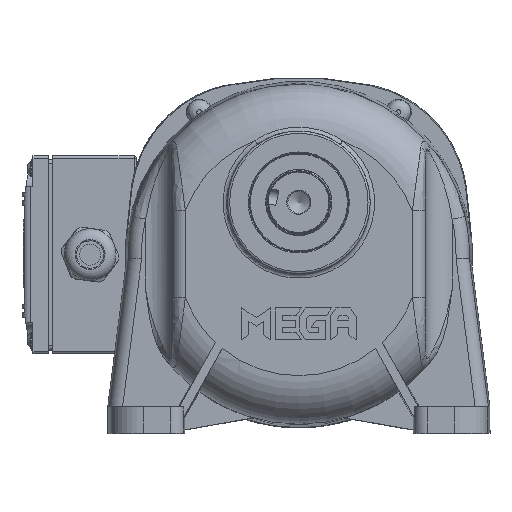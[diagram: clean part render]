
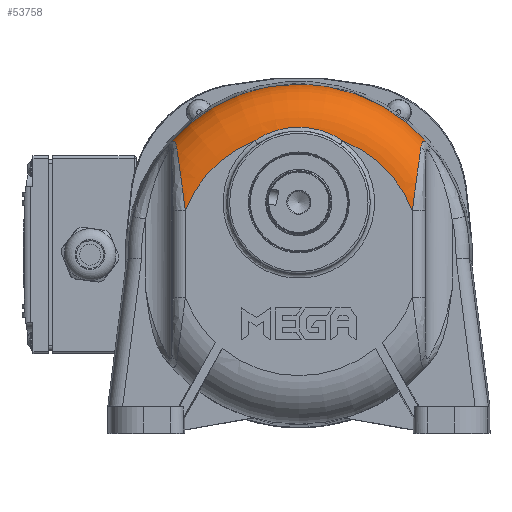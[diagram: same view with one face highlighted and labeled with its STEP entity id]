
A CAD part, top view. The second image highlights one B-rep face of the part: STEP entity #53758.
In plain terms, the highlighted toroidal (fillet/blend) face has major radius 55.343 mm and minor radius 22 mm.
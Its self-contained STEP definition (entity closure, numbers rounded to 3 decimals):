
#1431=TOROIDAL_SURFACE('',#57856,55.343,22.);
#3648=FACE_OUTER_BOUND('',#6945,.T.);
#6945=EDGE_LOOP('',(#37747,#37748,#37749,#37750,#37751,#37752,#37753,#37754));
#10184=CIRCLE('',#57857,55.343);
#10185=CIRCLE('',#57858,77.335);
#10186=CIRCLE('',#57859,55.343);
#18543=B_SPLINE_CURVE_WITH_KNOTS('',3,(#83741,#83742,#83743,#83744,#83745,
#83746,#83747),.UNSPECIFIED.,.F.,.F.,(4,1,1,1,4),(-0.938,-0.67,
-0.536,-0.268,0.),
 .UNSPECIFIED.);
#18544=B_SPLINE_CURVE_WITH_KNOTS('',3,(#83793,#83794,#83795,#83796,#83797,
#83798,#83799),.UNSPECIFIED.,.F.,.F.,(4,1,1,1,4),(-9.38,-8.993,
-8.607,-7.833,-6.673),.UNSPECIFIED.);
#18550=B_SPLINE_CURVE_WITH_KNOTS('',3,(#83991,#83992,#83993,#83994,#83995,
#83996,#83997),.UNSPECIFIED.,.F.,.F.,(4,1,1,1,4),(0.,
0.608,1.824,3.039,4.255),
 .UNSPECIFIED.);
#18551=B_SPLINE_CURVE_WITH_KNOTS('',3,(#84002,#84003,#84004,#84005,#84006,
#84007,#84008),.UNSPECIFIED.,.F.,.F.,(4,1,1,1,4),(-0.938,-0.67,
-0.536,-0.268,0.),.UNSPECIFIED.);
#18552=B_SPLINE_CURVE_WITH_KNOTS('',3,(#84010,#84011,#84012,#84013,#84014,
#84015,#84016,#84017),.UNSPECIFIED.,.F.,.F.,(4,1,1,1,1,4),(-2.707,
-1.934,-1.16,-0.774,-0.387,
0.),.UNSPECIFIED.);
#21691=VERTEX_POINT('',#83703);
#21692=VERTEX_POINT('',#83740);
#21693=VERTEX_POINT('',#83791);
#21701=VERTEX_POINT('',#83989);
#21702=VERTEX_POINT('',#83990);
#21703=VERTEX_POINT('',#83999);
#21704=VERTEX_POINT('',#84001);
#21705=VERTEX_POINT('',#84009);
#27428=EDGE_CURVE('',#21691,#21692,#18543,.T.);
#27431=EDGE_CURVE('',#21692,#21693,#18544,.T.);
#27445=EDGE_CURVE('',#21701,#21702,#18550,.T.);
#27446=EDGE_CURVE('',#21701,#21693,#10184,.T.);
#27447=EDGE_CURVE('',#21703,#21691,#10185,.F.);
#27448=EDGE_CURVE('',#21704,#21703,#18551,.T.);
#27449=EDGE_CURVE('',#21705,#21704,#18552,.T.);
#27450=EDGE_CURVE('',#21705,#21702,#10186,.T.);
#37747=ORIENTED_EDGE('',*,*,#27445,.F.);
#37748=ORIENTED_EDGE('',*,*,#27446,.T.);
#37749=ORIENTED_EDGE('',*,*,#27431,.F.);
#37750=ORIENTED_EDGE('',*,*,#27428,.F.);
#37751=ORIENTED_EDGE('',*,*,#27447,.F.);
#37752=ORIENTED_EDGE('',*,*,#27448,.F.);
#37753=ORIENTED_EDGE('',*,*,#27449,.F.);
#37754=ORIENTED_EDGE('',*,*,#27450,.T.);
#53758=ADVANCED_FACE('',(#3648),#1431,.T.);
#57856=AXIS2_PLACEMENT_3D('',#83988,#66803,#66804);
#57857=AXIS2_PLACEMENT_3D('',#83998,#66805,#66806);
#57858=AXIS2_PLACEMENT_3D('',#84000,#66807,#66808);
#57859=AXIS2_PLACEMENT_3D('',#84018,#66809,#66810);
#66803=DIRECTION('center_axis',(0.,0.,-1.));
#66804=DIRECTION('ref_axis',(-1.,0.,0.));
#66805=DIRECTION('center_axis',(0.,0.,-1.));
#66806=DIRECTION('ref_axis',(-1.,0.,0.));
#66807=DIRECTION('center_axis',(0.,0.,1.));
#66808=DIRECTION('ref_axis',(-1.,0.,0.));
#66809=DIRECTION('center_axis',(0.,0.,-1.));
#66810=DIRECTION('ref_axis',(-1.,0.,0.));
#83703=CARTESIAN_POINT('',(43.631,51.951,11.076));
#83740=CARTESIAN_POINT('',(40.714,49.948,22.443));
#83741=CARTESIAN_POINT('Ctrl Pts',(43.631,51.951,11.076));
#83742=CARTESIAN_POINT('Ctrl Pts',(43.217,52.392,12.035));
#83743=CARTESIAN_POINT('Ctrl Pts',(42.609,52.868,13.641));
#83744=CARTESIAN_POINT('Ctrl Pts',(41.742,52.893,16.591));
#83745=CARTESIAN_POINT('Ctrl Pts',(41.098,52.049,19.563));
#83746=CARTESIAN_POINT('Ctrl Pts',(40.82,50.695,21.558));
#83747=CARTESIAN_POINT('Ctrl Pts',(40.714,49.948,22.443));
#83791=CARTESIAN_POINT('',(36.791,21.21,32.5));
#83793=CARTESIAN_POINT('Ctrl Pts',(40.714,49.948,22.443));
#83794=CARTESIAN_POINT('Ctrl Pts',(40.56,48.869,23.72));
#83795=CARTESIAN_POINT('Ctrl Pts',(40.217,46.427,25.986));
#83796=CARTESIAN_POINT('Ctrl Pts',(39.458,40.984,29.327));
#83797=CARTESIAN_POINT('Ctrl Pts',(38.24,32.304,32.108));
#83798=CARTESIAN_POINT('Ctrl Pts',(37.278,25.277,32.5));
#83799=CARTESIAN_POINT('Ctrl Pts',(36.791,21.21,32.5));
#83988=CARTESIAN_POINT('Origin',(-14.876,1.378,10.5));
#83989=CARTESIAN_POINT('',(5.151,52.97,32.5));
#83990=CARTESIAN_POINT('',(-34.903,52.97,32.5));
#83991=CARTESIAN_POINT('Ctrl Pts',(5.151,52.97,32.5));
#83992=CARTESIAN_POINT('Ctrl Pts',(3.486,54.107,32.5));
#83993=CARTESIAN_POINT('Ctrl Pts',(-1.859,57.128,32.455));
#83994=CARTESIAN_POINT('Ctrl Pts',(-11.814,59.725,32.336));
#83995=CARTESIAN_POINT('Ctrl Pts',(-24.089,58.666,32.393));
#83996=CARTESIAN_POINT('Ctrl Pts',(-31.574,55.245,32.5));
#83997=CARTESIAN_POINT('Ctrl Pts',(-34.903,52.97,32.5));
#83998=CARTESIAN_POINT('Origin',(-14.876,1.378,32.5));
#83999=CARTESIAN_POINT('',(-73.383,51.951,11.076));
#84000=CARTESIAN_POINT('Origin',(-14.876,1.378,11.076));
#84001=CARTESIAN_POINT('',(-70.466,49.948,22.443));
#84002=CARTESIAN_POINT('Ctrl Pts',(-70.466,49.948,22.443));
#84003=CARTESIAN_POINT('Ctrl Pts',(-70.572,50.695,21.558));
#84004=CARTESIAN_POINT('Ctrl Pts',(-70.782,51.696,20.069));
#84005=CARTESIAN_POINT('Ctrl Pts',(-71.342,52.772,17.231));
#84006=CARTESIAN_POINT('Ctrl Pts',(-72.15,53.04,14.193));
#84007=CARTESIAN_POINT('Ctrl Pts',(-72.969,52.392,12.035));
#84008=CARTESIAN_POINT('Ctrl Pts',(-73.383,51.951,11.076));
#84009=CARTESIAN_POINT('',(-66.543,21.21,32.5));
#84010=CARTESIAN_POINT('Ctrl Pts',(-66.543,21.21,32.5));
#84011=CARTESIAN_POINT('Ctrl Pts',(-66.868,23.921,32.5));
#84012=CARTESIAN_POINT('Ctrl Pts',(-67.596,29.458,32.283));
#84013=CARTESIAN_POINT('Ctrl Pts',(-68.605,36.667,30.838));
#84014=CARTESIAN_POINT('Ctrl Pts',(-69.402,42.363,28.484));
#84015=CARTESIAN_POINT('Ctrl Pts',(-69.969,46.425,25.984));
#84016=CARTESIAN_POINT('Ctrl Pts',(-70.312,48.869,23.72));
#84017=CARTESIAN_POINT('Ctrl Pts',(-70.466,49.948,22.443));
#84018=CARTESIAN_POINT('Origin',(-14.876,1.378,32.5));
